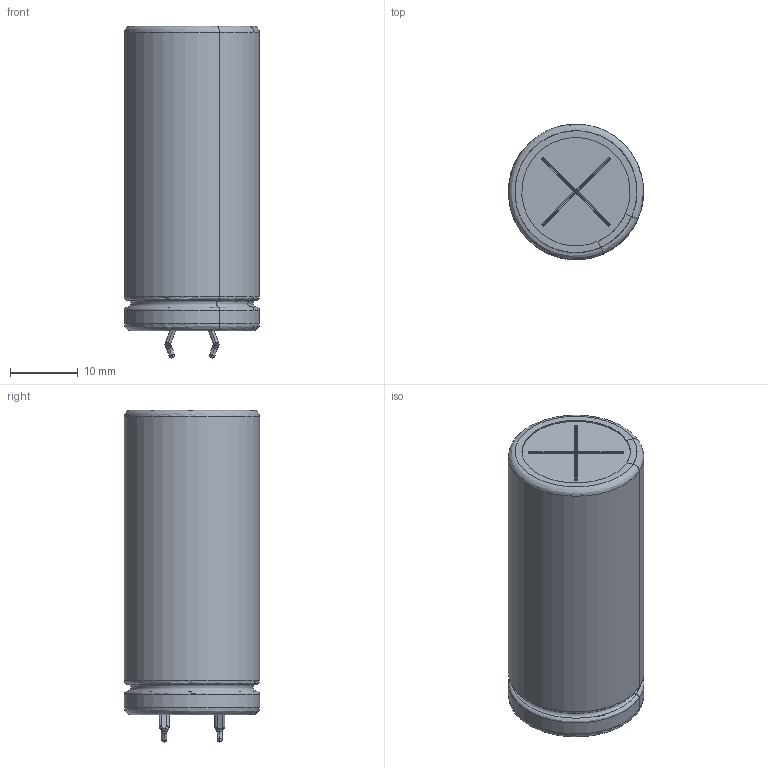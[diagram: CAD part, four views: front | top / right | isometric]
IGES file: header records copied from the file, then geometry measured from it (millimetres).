
Start section: JAMA-IS VERSION  1.0
Bounding box: 19.94 x 19.94 x 49.02 mm (x, y, z)
Surface area: 9641.3 mm2 (no closed solid volume)
Topology: 0 solids, 0 shells, 208 faces, 2162 edges, 2126 vertices
Faces by surface type: bspline 208
